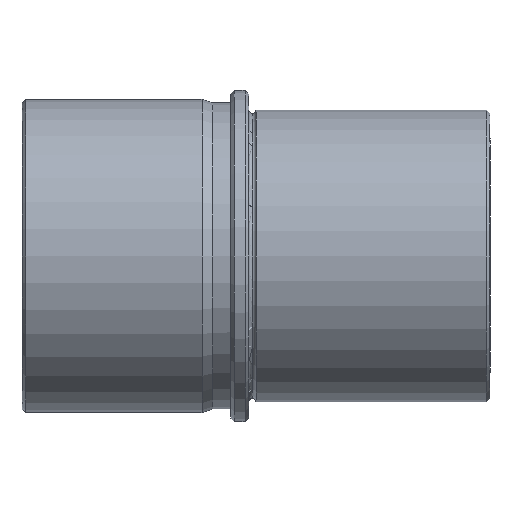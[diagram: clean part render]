
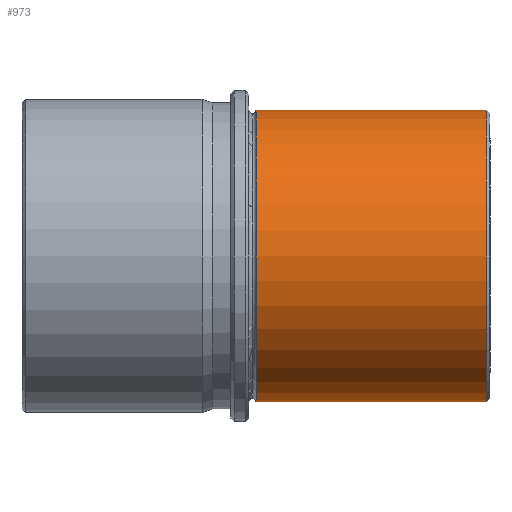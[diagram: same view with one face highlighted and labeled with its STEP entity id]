
A CAD part, left-side view. The second image highlights one B-rep face of the part: STEP entity #973.
In plain terms, the highlighted cylindrical face has radius 40.5 mm (diameter 81 mm), a partial arc.
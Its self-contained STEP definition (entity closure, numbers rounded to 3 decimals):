
#789=CARTESIAN_POINT('Vertex',(0.,65.,40.5)) ;
#796=CARTESIAN_POINT('Vertex',(0.,65.,-40.5)) ;
#822=CARTESIAN_POINT('Axis2P3D Location',(0.,65.,0.)) ;
#826=CARTESIAN_POINT('Vertex',(-40.5,65.,0.)) ;
#829=CARTESIAN_POINT('Axis2P3D Location',(0.,65.,0.)) ;
#913=CARTESIAN_POINT('Line Origine',(0.,0.,-40.5)) ;
#917=CARTESIAN_POINT('Vertex',(0.,1.,-40.5)) ;
#920=CARTESIAN_POINT('Line Origine',(0.,0.,40.5)) ;
#924=CARTESIAN_POINT('Vertex',(0.,1.,40.5)) ;
#948=CARTESIAN_POINT('Axis2P3D Location',(0.,0.,0.)) ;
#953=CARTESIAN_POINT('Axis2P3D Location',(0.,1.,0.)) ;
#957=CARTESIAN_POINT('Vertex',(-40.5,1.,0.)) ;
#960=CARTESIAN_POINT('Axis2P3D Location',(0.,1.,0.)) ;
#823=DIRECTION('Axis2P3D Direction',(0.,-1.,0.)) ;
#830=DIRECTION('Axis2P3D Direction',(0.,-1.,0.)) ;
#914=DIRECTION('Vector Direction',(0.,1.,0.)) ;
#921=DIRECTION('Vector Direction',(0.,1.,0.)) ;
#949=DIRECTION('Axis2P3D Direction',(0.,1.,0.)) ;
#950=DIRECTION('Axis2P3D XDirection',(0.,0.,-1.)) ;
#954=DIRECTION('Axis2P3D Direction',(0.,1.,0.)) ;
#961=DIRECTION('Axis2P3D Direction',(0.,1.,0.)) ;
#824=AXIS2_PLACEMENT_3D('Circle Axis2P3D',#822,#823,$) ;
#831=AXIS2_PLACEMENT_3D('Circle Axis2P3D',#829,#830,$) ;
#951=AXIS2_PLACEMENT_3D('Cylinder Axis2P3D',#948,#949,#950) ;
#955=AXIS2_PLACEMENT_3D('Circle Axis2P3D',#953,#954,$) ;
#962=AXIS2_PLACEMENT_3D('Circle Axis2P3D',#960,#961,$) ;
#966=ORIENTED_EDGE('',*,*,#926,.T.) ;
#967=ORIENTED_EDGE('',*,*,#833,.T.) ;
#968=ORIENTED_EDGE('',*,*,#828,.T.) ;
#969=ORIENTED_EDGE('',*,*,#919,.T.) ;
#970=ORIENTED_EDGE('',*,*,#959,.F.) ;
#971=ORIENTED_EDGE('',*,*,#964,.F.) ;
#915=VECTOR('Line Direction',#914,1.) ;
#922=VECTOR('Line Direction',#921,1.) ;
#973=ADVANCED_FACE('CF 450 63x130',(#972),#952,.T.) ;
#825=CIRCLE('generated circle',#824,40.5) ;
#832=CIRCLE('generated circle',#831,40.5) ;
#956=CIRCLE('generated circle',#955,40.5) ;
#963=CIRCLE('generated circle',#962,40.5) ;
#952=CYLINDRICAL_SURFACE('generated cylinder',#951,40.5) ;
#828=EDGE_CURVE('',#827,#797,#825,.T.) ;
#833=EDGE_CURVE('',#790,#827,#832,.T.) ;
#919=EDGE_CURVE('',#797,#918,#916,.F.) ;
#926=EDGE_CURVE('',#925,#790,#923,.T.) ;
#959=EDGE_CURVE('',#958,#918,#956,.F.) ;
#964=EDGE_CURVE('',#925,#958,#963,.F.) ;
#965=EDGE_LOOP('',(#966,#967,#968,#969,#970,#971)) ;
#972=FACE_OUTER_BOUND('',#965,.T.) ;
#916=LINE('Line',#913,#915) ;
#923=LINE('Line',#920,#922) ;
#790=VERTEX_POINT('',#789) ;
#797=VERTEX_POINT('',#796) ;
#827=VERTEX_POINT('',#826) ;
#918=VERTEX_POINT('',#917) ;
#925=VERTEX_POINT('',#924) ;
#958=VERTEX_POINT('',#957) ;
